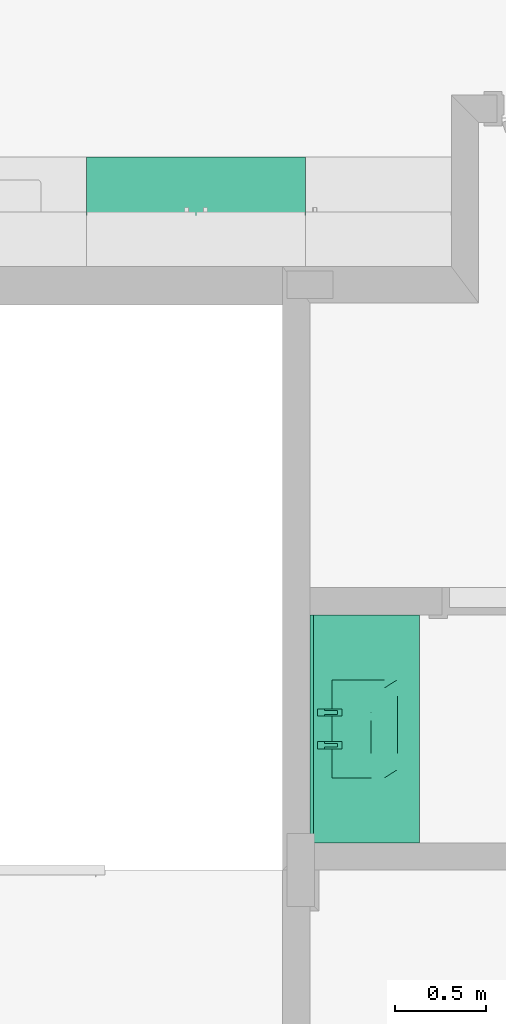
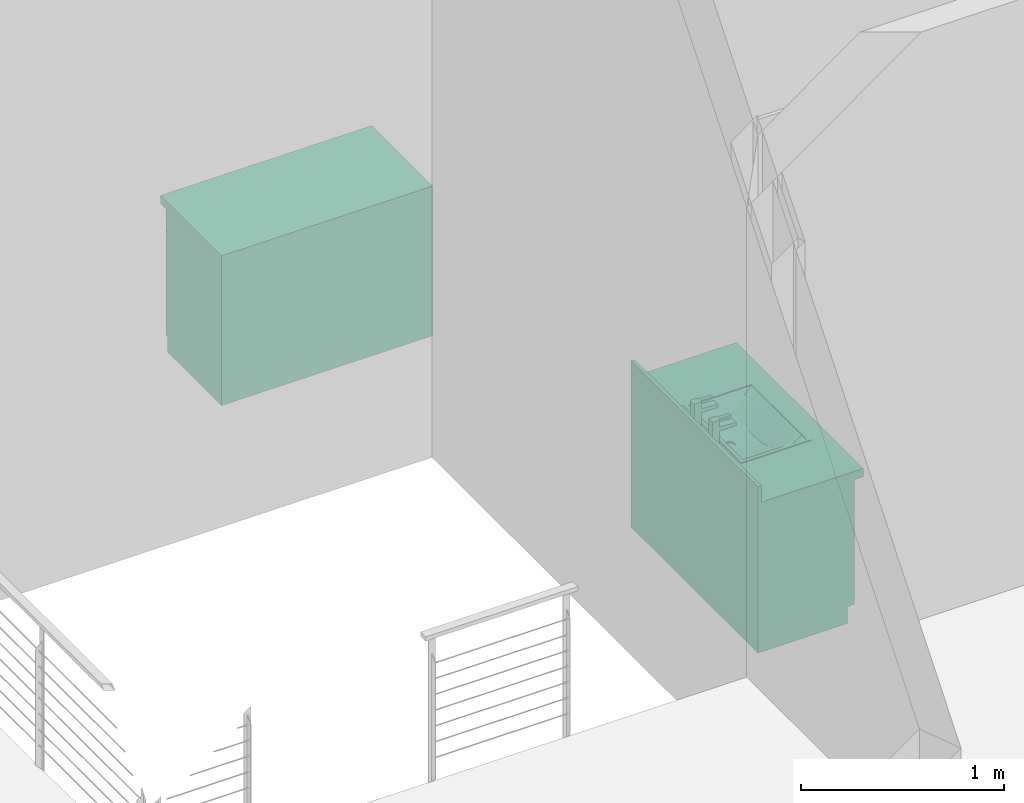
# One storey, part 22 of 26: 2 distribution elements.
"""IFC2X3 building model written with IfcOpenShell, lengths in millimetres."""

import ifcopenshell
import ifcopenshell.guid

model = None  # the IFC model being written
_history = None  # IfcOwnerHistory: only IFC2X3 demands one
_inside = {}  # id of a spatial element -> (the spatial element, [elements in it])
_under = {}  # id of a project, library or spatial element -> (it, [spatial elements below it])
_declared = {}  # id of a project -> (the project, [libraries it declares])
_typed = {}  # id of a type object -> (the type object, [elements of that type])
_made_of = {}  # id of a material, layer set ... -> (it, [elements and type objects made of it])


def new_model(schema):
    """Start an empty IFC model of exactly this schema.

    Asked for "IFC4X3", IfcOpenShell would pick the latest addendum, in which some entities
    have other attributes; the version numbers below select the first issue.
    IFC2X3 requires an IfcOwnerHistory on every rooted entity: one is made here for all.
    """
    global model, _history
    if schema == "IFC4X3":
        model = ifcopenshell.file(schema_version=(4, 3, 0, 0))
    else:
        model = ifcopenshell.file(schema=schema)
    _inside.clear()
    _under.clear()
    _declared.clear()
    _typed.clear()
    _made_of.clear()
    _history = None
    if model.schema == "IFC2X3":
        org = make("IfcOrganization", Name="unknown")
        user = make(
            "IfcPersonAndOrganization",
            ThePerson=make("IfcPerson", FamilyName="unknown"),
            TheOrganization=org,
        )
        app = make(
            "IfcApplication",
            ApplicationDeveloper=org,
            Version="unknown",
            ApplicationFullName="unknown",
            ApplicationIdentifier="unknown",
        )
        _history = make(
            "IfcOwnerHistory",
            OwningUser=user,
            OwningApplication=app,
            ChangeAction="ADDED",
            CreationDate=0,
        )
    return model


def make(cls, **values):
    """One entity of the class cls with the attributes given. An attribute that is None is left unset."""
    return model.create_entity(
        cls, **{name: value for name, value in values.items() if value is not None}
    )


def entity(cls, *values):
    """Any entity or typed value of the class cls, its attributes in the order of the schema. None: left unset."""
    e = model.create_entity(cls)
    for i, value in enumerate(values):
        if value is not None:
            e[i] = value
    return e


def rooted(cls, **values):
    """An entity with a GlobalId (a new one), such as an element, a storey or a relation."""
    return make(cls, GlobalId=ifcopenshell.guid.new(), OwnerHistory=_history, **values)


def si_unit(unit_type, name, prefix=None):
    """IfcSIUnit, for example si_unit("LENGTHUNIT", "METRE", prefix="MILLI")."""
    return make("IfcSIUnit", UnitType=unit_type, Prefix=prefix, Name=name)


def converted_unit(unit_type, name, factor, base, dimensions=None, offset=None):
    """IfcConversionBasedUnit, such as the inch: factor (a typed value) times the base unit."""
    return make(
        "IfcConversionBasedUnit"
        if offset is None
        else "IfcConversionBasedUnitWithOffset",
        ConversionOffset=offset,
        Dimensions=None
        if dimensions is None
        else entity("IfcDimensionalExponents", *dimensions),
        UnitType=unit_type,
        Name=name,
        ConversionFactor=make(
            "IfcMeasureWithUnit", ValueComponent=factor, UnitComponent=base
        ),
    )


def money_unit(currency):
    """IfcMonetaryUnit."""
    return make("IfcMonetaryUnit", Currency=currency)


def assignment(units):
    """IfcUnitAssignment: the units of a project."""
    return None if units is None else make("IfcUnitAssignment", Units=units)


def point(xyz):
    """IfcCartesianPoint."""
    return None if xyz is None else make("IfcCartesianPoint", Coordinates=xyz)


def direction(xyz):
    """IfcDirection."""
    return None if xyz is None else make("IfcDirection", DirectionRatios=xyz)


def frame(location, z_axis=None, x_axis=None):
    """IfcAxis2Placement3D, a coordinate frame: its origin and axes. An axis left out is left unset."""
    return make(
        "IfcAxis2Placement3D",
        Location=point(location),
        Axis=direction(z_axis),
        RefDirection=direction(x_axis),
    )


def origin_with_axes():
    """The frame at (0, 0, 0) with the z axis (0, 0, 1) and the x axis (1, 0, 0) written out."""
    return frame((0.0, 0.0, 0.0), z_axis=(0.0, 0.0, 1.0), x_axis=(1.0, 0.0, 0.0))


def place(relative_to, where):
    """IfcLocalPlacement: puts the frame where relative to a parent placement (None: the world)."""
    return make(
        "IfcLocalPlacement", PlacementRelTo=relative_to, RelativePlacement=where
    )


def context(
    kind, dimensions, precision=None, world=None, true_north=None, identifier=None
):
    """IfcGeometricRepresentationContext, for example the 3D "Model" context."""
    return make(
        "IfcGeometricRepresentationContext",
        ContextIdentifier=identifier,
        ContextType=kind,
        CoordinateSpaceDimension=dimensions,
        Precision=precision,
        WorldCoordinateSystem=world,
        TrueNorth=true_north,
    )


def subcontext(parent, identifier, kind, view, scale=None):
    """IfcGeometricRepresentationSubContext, for example "Body" below "Model"."""
    return make(
        "IfcGeometricRepresentationSubContext",
        ContextIdentifier=identifier,
        ContextType=kind,
        ParentContext=parent,
        TargetScale=scale,
        TargetView=view,
    )


def project(units=None, contexts=None):
    """IfcProject with its units and contexts."""
    return rooted(
        "IfcProject",
        Name="project",
        RepresentationContexts=contexts,
        UnitsInContext=assignment(units),
    )


def spatial(cls, under=None, at=None, **own):
    """A site, building, storey or space (cls), placed at a placement, below another one or the project."""
    s = rooted(cls, ObjectPlacement=at, **own)
    if under is not None:
        _under.setdefault(under.id(), (under, []))[1].append(s)
    return s


def faces_of(points, faces, orient=None, outer=None):
    """IfcFace entities. A face is a list of loops; a loop is a list of indices into points, from 0.

    orient and outer hold one flag for each loop. By default every Orientation is true, the
    first loop of a face is its IfcFaceOuterBound and the others are IfcFaceBound.
    """
    made = []
    for i, loops in enumerate(faces):
        bounds = []
        for j, loop in enumerate(loops):
            is_outer = j == 0 if outer is None else outer[i][j]
            bounds.append(
                make(
                    "IfcFaceOuterBound" if is_outer else "IfcFaceBound",
                    Bound=make("IfcPolyLoop", Polygon=[points[k] for k in loop]),
                    Orientation=True if orient is None else orient[i][j],
                )
            )
        made.append(make("IfcFace", Bounds=bounds))
    return made


def open_shell(faces, orient=None, outer=None):
    """The faces of one IfcOpenShell. surface_model builds it on its shared points."""
    return ("IfcOpenShell", faces, orient, outer)


def faceted_brep(points, faces, orient=None, outer=None, voids=None):
    """IfcFacetedBrep: a solid bounded by flat faces; with voids (closed shells), ...WithVoids."""
    shared = [point(p) for p in points]
    hull = make("IfcClosedShell", CfsFaces=faces_of(shared, faces, orient, outer))
    if voids is None:
        return make("IfcFacetedBrep", Outer=hull)
    return make(
        "IfcFacetedBrepWithVoids",
        Outer=hull,
        Voids=[
            make(cls, CfsFaces=faces_of(shared, fs, o, b)) for cls, fs, o, b in voids
        ],
    )


def surface_model(cls, points, shells):
    """IfcFaceBasedSurfaceModel or IfcShellBasedSurfaceModel (cls): surfaces that need not close."""
    shared = [point(p) for p in points]
    made = [make(c, CfsFaces=faces_of(shared, fs, o, b)) for c, fs, o, b in shells]
    if cls == "IfcFaceBasedSurfaceModel":
        return make(cls, FbsmFaces=made)
    return make(cls, SbsmBoundary=made)


def shape(context_of_items, identifier, shape_type, items):
    """IfcShapeRepresentation: the items that make up one representation, for example the "Body"."""
    return make(
        "IfcShapeRepresentation",
        ContextOfItems=context_of_items,
        RepresentationIdentifier=identifier,
        RepresentationType=shape_type,
        Items=items,
    )


def material(Name=None, Category=None):
    """IfcMaterial."""
    return make("IfcMaterial", Name=Name, Category=Category)


def made_of(thing, what):
    """Note that an element or type object is made of a material, layer set ...; save() writes the relation."""
    if what is not None:
        _made_of.setdefault(what.id(), (what, []))[1].append(thing)
    return thing


def type_object(cls, material=None, **own):
    """A type object (cls), such as IfcWallType, which elements share."""
    return made_of(rooted(cls, **own), material)


def element(
    cls,
    number,
    at=None,
    inside=None,
    cuts=None,
    type_object=None,
    material=None,
    context=None,
    identifier="Body",
    shape_type=None,
    held_by="IfcProductDefinitionShape",
    body=None,
    shapes=None,
    **own,
):
    """One element of the class cls, such as IfcWall. Its Tag is "e" and its number.

    at: its placement. inside: the storey or other place that contains it. cuts: it is an
    opening in that element (IfcRelVoidsElement). A single representation is given by context,
    identifier, shape_type and body (its items); several are given by shapes. held_by: the class
    of the entity that holds the representations. save() writes the other relations.
    """
    e = rooted(cls, Tag="e%d" % number, ObjectPlacement=at, **own)
    if body is not None:
        shapes = [shape(context, identifier, shape_type, body)]
    if shapes is not None:
        e.Representation = make(held_by, Representations=shapes)
    if inside is not None:
        _inside.setdefault(inside.id(), (inside, []))[1].append(e)
    if cuts is not None:
        rooted(
            "IfcRelVoidsElement", RelatingBuildingElement=cuts, RelatedOpeningElement=e
        )
    if type_object is not None:
        _typed.setdefault(type_object.id(), (type_object, []))[1].append(e)
    return made_of(e, material)


def aggregate(whole, parts):
    """IfcRelAggregates: a whole, such as a stair, and the parts it consists of."""
    return rooted("IfcRelAggregates", RelatingObject=whole, RelatedObjects=parts)


def save(model, path):
    """Write the relations noted so far, then the file.

    IfcRelAggregates (storeys below a building ...), IfcRelContainedInSpatialStructure (elements
    in a storey), IfcRelDefinesByType, IfcRelAssociatesMaterial and IfcRelDeclares: one each for
    every whole, place, type object, material and project.
    """
    for whole, parts in _under.values():
        aggregate(whole, parts)
    for where, things in _inside.values():
        rooted(
            "IfcRelContainedInSpatialStructure",
            RelatedElements=things,
            RelatingStructure=where,
        )
    for kind, things in _typed.values():
        rooted("IfcRelDefinesByType", RelatedObjects=things, RelatingType=kind)
    for what, things in _made_of.values():
        rooted("IfcRelAssociatesMaterial", RelatedObjects=things, RelatingMaterial=what)
    for by, libraries in _declared.values():
        rooted("IfcRelDeclares", RelatingContext=by, RelatedDefinitions=libraries)
    model.write(path)


model = new_model("IFC2X3")

# Units and contexts
model_context = context("Model", 3, precision=1e-05, world=origin_with_axes(), true_north=direction((0.0, 1.0)))
body_context = subcontext(model_context, "Body", "Model", "MODEL_VIEW")
ifc_project = project(units=[si_unit("LENGTHUNIT", "METRE", prefix="MILLI"), si_unit("AREAUNIT", "SQUARE_METRE"), si_unit("VOLUMEUNIT", "CUBIC_METRE"), converted_unit("PLANEANGLEUNIT", "DEGREE", entity("IfcPlaneAngleMeasure", 0.0174532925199), si_unit("PLANEANGLEUNIT", "RADIAN"), dimensions=[0, 0, 0, 0, 0, 0, 0]), si_unit("SOLIDANGLEUNIT", "STERADIAN"), money_unit("USD"), converted_unit("TIMEUNIT", "Year", entity("IfcTimeMeasure", 31556926.0), si_unit("TIMEUNIT", "SECOND"), dimensions=[0, 0, 0, 0, 0, 0, 0]), si_unit("MASSUNIT", "GRAM"), si_unit("THERMODYNAMICTEMPERATUREUNIT", "DEGREE_CELSIUS"), si_unit("LUMINOUSINTENSITYUNIT", "LUMEN")], contexts=[model_context])

# Site, building, storey
site_placement = place(None, origin_with_axes())
site = spatial("IfcSite", under=ifc_project, at=site_placement, Name="Grove Residential", CompositionType="ELEMENT")
building_placement = place(site_placement, origin_with_axes())
building = spatial("IfcBuilding", under=site, at=building_placement, Name="Building", CompositionType="ELEMENT")
storey_placement = place(building_placement, origin_with_axes())
storey = spatial("IfcBuildingStorey", under=building, at=storey_placement, Name="Ground Floor", CompositionType="ELEMENT", Elevation=0.0)

# Distribution elements
ifc_material = material(Name="Background")
distribution_element_type_1 = type_object("IfcDistributionElementType", Name="Basin Cabinet 21")
distribution_element_1_placement = place(storey_placement, frame((7825.0, 5150.0, 0.0), z_axis=(0.0, 0.0, 1.0), x_axis=(0.0, 1.0, 0.0)))
element("IfcDistributionElement", 1, at=distribution_element_1_placement, inside=storey, type_object=distribution_element_type_1, material=ifc_material, Name="FU - 002", context=body_context, shape_type="SurfaceModel", body=[
    faceted_brep([(0.0, 90.0, 0.0), (0.0, 90.0, 100.0), (-1250.0, 90.0, 100.0), (-1250.0, 90.0, 0.0), (0.0, 600.0, 0.0), (0.0, 600.0, 100.0), (-1250.0, 600.0, 100.0), (-1250.0, 600.0, 0.0)], [[[0, 1, 2, 3]], [[4, 5, 1, 0]], [[1, 5, 6, 2]], [[3, 2, 6, 7]], [[0, 3, 7, 4]], [[7, 6, 5, 4]]]),
    faceted_brep([(0.0, 70.0, 100.0), (0.0, 70.0, 120.0), (-20.0, 70.0, 120.0), (-20.0, 70.0, 100.0), (0.0, 600.0, 100.0), (0.0, 600.0, 120.0), (-20.0, 600.0, 120.0), (-1230.0, 600.0, 120.0), (-1250.0, 600.0, 120.0), (-1250.0, 70.0, 120.0), (-1230.0, 70.0, 120.0), (-1230.0, 70.0, 100.0), (-1250.0, 70.0, 100.0), (-1250.0, 600.0, 100.0), (-1230.0, 600.0, 100.0), (-20.0, 600.0, 100.0)], [[[0, 1, 2, 3]], [[4, 5, 1, 0]], [[1, 5, 6, 7, 8, 9, 10, 2]], [[3, 2, 10, 11]], [[0, 3, 11, 12, 13, 14, 15, 4]], [[15, 6, 5, 4]], [[14, 7, 6, 15]], [[13, 8, 7, 14]], [[12, 9, 8, 13]], [[11, 10, 9, 12]]]),
    faceted_brep([(0.0, 70.0, 120.0), (0.0, 70.0, 850.0), (-20.0, 70.0, 850.0), (-20.0, 70.0, 120.0), (0.0, 600.0, 120.0), (0.0, 600.0, 850.0), (-1250.0, 600.0, 850.0), (-1250.0, 70.0, 850.0), (-1230.0, 70.0, 850.0), (-1230.0, 580.0, 850.0), (-20.0, 580.0, 850.0), (-20.0, 580.0, 120.0), (-1230.0, 580.0, 120.0), (-1230.0, 70.0, 120.0), (-1250.0, 70.0, 120.0), (-1250.0, 600.0, 120.0)], [[[0, 1, 2, 3]], [[4, 5, 1, 0]], [[1, 5, 6, 7, 8, 9, 10, 2]], [[3, 2, 10, 11]], [[0, 3, 11, 12, 13, 14, 15, 4]], [[15, 6, 5, 4]], [[14, 7, 6, 15]], [[13, 8, 7, 14]], [[12, 9, 8, 13]], [[11, 10, 9, 12]]]),
    faceted_brep([(-1230.0, 70.0, 323.333333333), (-1230.0, 70.0, 343.333333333), (-1230.0, 580.0, 343.333333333), (-1230.0, 580.0, 323.333333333), (-20.0, 70.0, 323.333333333), (-20.0, 70.0, 343.333333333), (-20.0, 580.0, 343.333333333), (-20.0, 580.0, 323.333333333)], [[[0, 1, 2, 3]], [[4, 5, 1, 0]], [[1, 5, 6, 2]], [[3, 2, 6, 7]], [[0, 3, 7, 4]], [[7, 6, 5, 4]]]),
    faceted_brep([(-1230.0, 70.0, 566.666666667), (-1230.0, 70.0, 586.666666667), (-1230.0, 580.0, 586.666666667), (-1230.0, 580.0, 566.666666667), (-20.0, 70.0, 566.666666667), (-20.0, 70.0, 586.666666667), (-20.0, 580.0, 586.666666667), (-20.0, 580.0, 566.666666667)], [[[0, 1, 2, 3]], [[4, 5, 1, 0]], [[1, 5, 6, 2]], [[3, 2, 6, 7]], [[0, 3, 7, 4]], [[7, 6, 5, 4]]]),
    faceted_brep([(-1250.0, 600.0, 850.0), (0.0, 600.0, 850.0), (0.0, 0.0, 850.0), (-1250.0, 0.0, 850.0), (-355.0, 120.0, 850.0), (-355.0, 480.0, 850.0), (-895.0, 480.0, 850.0), (-895.0, 120.0, 850.0), (0.0, 600.0, 900.0), (-1250.0, 600.0, 900.0), (0.0, 0.0, 900.0), (-1250.0, 0.0, 900.0), (-355.0, 480.0, 900.0), (-355.0, 120.0, 900.0), (-895.0, 480.0, 900.0), (-895.0, 120.0, 900.0)], [[[0, 1, 2, 3], [4, 5, 6, 7]], [[8, 1, 0, 9]], [[10, 2, 1, 8]], [[11, 3, 2, 10]], [[9, 0, 3, 11]], [[12, 5, 4, 13]], [[14, 6, 5, 12]], [[15, 7, 6, 14]], [[13, 4, 7, 15]], [[9, 11, 10, 8], [13, 15, 14, 12]]]),
    faceted_brep([(0.0, 580.0, 900.0), (0.0, 580.0, 1000.0), (-1250.0, 580.0, 1000.0), (-1250.0, 580.0, 900.0), (0.0, 600.0, 900.0), (0.0, 600.0, 1000.0), (-1250.0, 600.0, 1000.0), (-1250.0, 600.0, 900.0)], [[[0, 1, 2, 3]], [[4, 5, 1, 0]], [[1, 5, 6, 2]], [[3, 2, 6, 7]], [[0, 3, 7, 4]], [[7, 6, 5, 4]]]),
    faceted_brep([(-336.0, 101.0, 900.0), (-336.0, 101.0, 905.0), (-914.0, 101.0, 905.0), (-914.0, 101.0, 900.0), (-336.0, 499.0, 900.0), (-336.0, 499.0, 905.0), (-914.0, 499.0, 905.0), (-356.0, 121.0, 905.0), (-894.0, 121.0, 905.0), (-894.0, 479.0, 905.0), (-356.0, 479.0, 905.0), (-914.0, 499.0, 900.0), (-356.0, 121.0, 900.0), (-356.0, 479.0, 900.0), (-894.0, 479.0, 900.0), (-894.0, 121.0, 900.0)], [[[0, 1, 2, 3]], [[4, 5, 1, 0]], [[1, 5, 6, 2], [7, 8, 9, 10]], [[3, 2, 6, 11]], [[0, 3, 11, 4], [12, 13, 14, 15]], [[11, 6, 5, 4]], [[15, 8, 7, 12]], [[14, 9, 8, 15]], [[13, 10, 9, 14]], [[12, 7, 10, 13]]]),
    surface_model("IfcShellBasedSurfaceModel", [(-597.298862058, 407.4, 801.512410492), (-580.166666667, 407.4, 802.447784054), (-580.166666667, 479.0, 802.447784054), (-625.0, 479.0, 800.0), (-625.0, 428.82053, 800.0), (-610.0, 424.801292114, 800.818961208), (-599.019237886, 413.82053, 801.418482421), (-625.0, 368.82053, 800.0), (-625.0, 335.8, 800.0), (-580.166666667, 335.8, 802.447784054), (-595.0, 398.82053, 801.637922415), (-599.019237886, 383.82053, 801.418482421), (-610.0, 372.839767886, 800.818961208), (-535.333333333, 407.4, 809.880570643), (-535.333333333, 479.0, 809.880570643), (-804.333333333, 479.0, 841.099033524), (-759.5, 479.0, 822.583844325), (-714.666666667, 479.0, 809.880570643), (-669.833333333, 479.0, 802.447784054), (-490.5, 479.0, 822.583844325), (-445.666666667, 479.0, 841.099033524), (-400.833333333, 479.0, 866.359398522), (-356.0, 479.0, 900.0), (-894.0, 479.0, 900.0), (-849.166666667, 479.0, 866.359398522), (-669.833333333, 407.4, 802.447784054), (-652.701137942, 407.4, 801.512410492), (-650.980762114, 413.82053, 801.418482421), (-640.0, 424.801292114, 800.818961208), (-669.833333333, 335.8, 802.447784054), (-640.0, 372.839767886, 800.818961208), (-650.980762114, 383.82053, 801.418482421), (-655.0, 398.82053, 801.637922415), (-580.166666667, 264.2, 813.703778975), (-535.333333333, 335.8, 809.880570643), (-490.5, 407.4, 822.583844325), (-804.333333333, 407.4, 841.099033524), (-759.5, 407.4, 822.583844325), (-714.666666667, 407.4, 809.880570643), (-445.666666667, 407.4, 841.099033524), (-400.833333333, 407.4, 866.359398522), (-356.0, 407.4, 900.0), (-894.0, 407.4, 900.0), (-849.166666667, 407.4, 866.359398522), (-714.666666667, 335.8, 809.880570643), (-625.0, 264.2, 811.479674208), (-535.333333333, 264.2, 820.44293141), (-490.5, 335.8, 822.583844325), (-804.333333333, 335.8, 841.099033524), (-759.5, 335.8, 822.583844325), (-445.666666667, 335.8, 841.099033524), (-400.833333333, 335.8, 866.359398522), (-356.0, 335.8, 900.0), (-356.0, 264.2, 900.0), (-356.0, 192.6, 900.0), (-356.0, 121.0, 900.0), (-894.0, 264.2, 900.0), (-894.0, 335.8, 900.0), (-894.0, 121.0, 900.0), (-894.0, 192.6, 900.0), (-849.166666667, 335.8, 866.359398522), (-669.833333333, 264.2, 813.703778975), (-580.166666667, 192.6, 856.053471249), (-535.333333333, 192.6, 859.727879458), (-490.5, 264.2, 831.908110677), (-759.5, 264.2, 831.908110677), (-714.666666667, 264.2, 820.44293141), (-445.666666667, 264.2, 848.489912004), (-400.833333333, 264.2, 870.834422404), (-400.833333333, 192.6, 885.925600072), (-849.166666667, 264.2, 870.834422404), (-849.166666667, 121.0, 900.0), (-849.166666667, 192.6, 885.925600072), (-804.333333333, 264.2, 848.489912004), (-625.0, 192.6, 854.83231135), (-490.5, 192.6, 865.888816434), (-400.833333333, 121.0, 900.0), (-445.666666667, 121.0, 900.0), (-490.5, 121.0, 900.0), (-535.333333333, 121.0, 900.0), (-580.166666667, 121.0, 900.0), (-625.0, 121.0, 900.0), (-669.833333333, 121.0, 900.0), (-714.666666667, 121.0, 900.0), (-759.5, 121.0, 900.0), (-804.333333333, 121.0, 900.0), (-669.833333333, 192.6, 856.053471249), (-445.666666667, 192.6, 874.593452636), (-759.5, 192.6, 865.888816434), (-714.666666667, 192.6, 859.727879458), (-804.333333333, 192.6, 874.593452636)], [open_shell([[[0, 1, 2, 3, 4, 5, 6]], [[7, 8, 9, 1, 0, 10, 11, 12]], [[2, 1, 13, 14]], [[15, 16, 17, 18, 3, 2, 14, 19, 20, 21, 22, 23, 24]], [[3, 18, 25, 26, 27, 28, 4]], [[26, 25, 29, 8, 7, 30, 31, 32]], [[8, 33, 9]], [[1, 9, 34, 13]], [[14, 13, 35, 19]], [[15, 36, 37, 16]], [[16, 37, 38, 17]], [[17, 38, 25, 18]], [[19, 35, 39, 20]], [[20, 39, 40, 21]], [[21, 40, 41, 22]], [[23, 42, 43, 24]], [[24, 43, 36, 15]], [[38, 44, 29, 25]], [[29, 45, 8]], [[45, 33, 8]], [[33, 46, 9]], [[9, 46, 34]], [[13, 34, 47, 35]], [[36, 48, 49, 37]], [[37, 49, 44, 38]], [[35, 47, 50, 39]], [[39, 50, 51, 40]], [[40, 51, 52, 41]], [[52, 53, 54, 55, 22, 41]], [[56, 57, 42, 23, 58, 59]], [[42, 57, 60, 43]], [[43, 60, 48, 36]], [[44, 61, 29]], [[61, 45, 29]], [[45, 62, 33]], [[33, 63, 46]], [[46, 64, 34]], [[34, 64, 47]], [[48, 65, 49]], [[49, 66, 44]], [[47, 67, 50]], [[50, 68, 51]], [[51, 53, 52]], [[68, 54, 53]], [[69, 55, 54]], [[56, 70, 57]], [[58, 71, 59]], [[59, 72, 56]], [[57, 70, 60]], [[60, 73, 48]], [[66, 61, 44]], [[61, 74, 45]], [[74, 62, 45]], [[62, 63, 33]], [[63, 75, 46]], [[46, 75, 64]], [[64, 67, 47]], [[73, 65, 48]], [[65, 66, 49]], [[67, 68, 50]], [[68, 53, 51]], [[69, 54, 68]], [[76, 55, 69]], [[56, 72, 70]], [[77, 78, 79, 80, 81, 82, 83, 84, 85, 71, 58, 55, 76]], [[59, 71, 72]], [[70, 73, 60]], [[66, 86, 61]], [[86, 74, 61]], [[74, 80, 62]], [[62, 79, 63]], [[63, 78, 75]], [[75, 87, 64]], [[64, 87, 67]], [[73, 88, 65]], [[65, 89, 66]], [[67, 69, 68]], [[87, 76, 69]], [[72, 90, 70]], [[78, 77, 75]], [[79, 78, 63]], [[80, 79, 62]], [[81, 80, 74]], [[82, 81, 86]], [[83, 82, 89]], [[84, 83, 88]], [[85, 84, 90]], [[71, 85, 72]], [[77, 76, 87]], [[70, 90, 73]], [[89, 86, 66]], [[86, 81, 74]], [[75, 77, 87]], [[87, 69, 67]], [[90, 88, 73]], [[88, 89, 65]], [[72, 85, 90]], [[89, 82, 86]], [[88, 83, 89]], [[90, 84, 88]]])]),
    surface_model("IfcShellBasedSurfaceModel", [(-650.980762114, 413.82053, 801.418482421), (-650.980762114, 413.82053, 795.0), (-655.0, 398.82053, 795.0), (-655.0, 398.82053, 801.637922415), (-640.0, 424.801292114, 800.818961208), (-640.0, 424.801292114, 795.0), (-625.0, 428.82053, 795.0), (-610.0, 424.801292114, 795.0), (-599.019237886, 413.82053, 795.0), (-595.0, 398.82053, 795.0), (-599.019237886, 383.82053, 795.0), (-610.0, 372.839767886, 795.0), (-625.0, 368.82053, 795.0), (-640.0, 372.839767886, 795.0), (-650.980762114, 383.82053, 795.0), (-650.980762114, 383.82053, 801.418482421), (-625.0, 428.82053, 800.0), (-610.0, 424.801292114, 800.818961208), (-599.019237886, 413.82053, 801.418482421), (-595.0, 398.82053, 801.637922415), (-599.019237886, 383.82053, 801.418482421), (-610.0, 372.839767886, 800.818961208), (-625.0, 368.82053, 800.0), (-640.0, 372.839767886, 800.818961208)], [open_shell([[[0, 1, 2, 3]], [[4, 5, 1, 0]], [[5, 6, 7, 8, 9, 10, 11, 12, 13, 14, 2, 1]], [[3, 2, 14, 15]], [[16, 6, 5, 4]], [[17, 7, 6, 16]], [[18, 8, 7, 17]], [[19, 9, 8, 18]], [[20, 10, 9, 19]], [[21, 11, 10, 20]], [[22, 12, 11, 21]], [[23, 13, 12, 22]], [[15, 14, 13, 23]]])]),
    faceted_brep([(-735.0, 560.0, 900.0), (-695.0, 560.0, 900.0), (-695.0, 520.0, 900.0), (-735.0, 520.0, 900.0), (-735.0, 560.0, 1020.0), (-695.0, 560.0, 1020.0), (-695.0, 520.0, 1020.0), (-695.0, 425.0, 1013.35695287), (-695.0, 425.0, 995.0), (-695.0, 520.0, 995.0), (-735.0, 520.0, 995.0), (-735.0, 425.0, 995.0), (-735.0, 425.0, 1013.35695287), (-735.0, 520.0, 1020.0)], [[[0, 1, 2, 3]], [[4, 5, 1, 0]], [[1, 5, 6, 7, 8, 9, 2]], [[3, 2, 9, 10]], [[0, 3, 10, 11, 12, 13, 4]], [[13, 6, 5, 4]], [[12, 7, 6, 13]], [[11, 8, 7, 12]], [[10, 9, 8, 11]]]),
    faceted_brep([(-735.0, 560.0, 1020.0), (-695.0, 560.0, 1020.0), (-695.0, 520.0, 1020.0), (-735.0, 520.0, 1020.0), (-735.0, 560.0, 1060.0), (-695.0, 560.0, 1060.0), (-695.0, 520.0, 1060.0), (-735.0, 520.0, 1060.0)], [[[0, 1, 2, 3]], [[4, 5, 1, 0]], [[1, 5, 6, 2]], [[3, 2, 6, 7]], [[0, 3, 7, 4]], [[7, 6, 5, 4]]]),
    faceted_brep([(-725.0, 520.0, 1050.0), (-705.0, 520.0, 1050.0), (-705.0, 450.0, 1050.0), (-725.0, 450.0, 1050.0), (-725.0, 520.0, 1060.0), (-705.0, 520.0, 1060.0), (-705.0, 450.0, 1060.0), (-725.0, 450.0, 1060.0)], [[[0, 1, 2, 3]], [[4, 5, 1, 0]], [[1, 5, 6, 2]], [[3, 2, 6, 7]], [[0, 3, 7, 4]], [[7, 6, 5, 4]]]),
    faceted_brep([(-515.0, 560.0, 900.0), (-515.0, 520.0, 900.0), (-555.0, 520.0, 900.0), (-555.0, 560.0, 900.0), (-515.0, 560.0, 1020.0), (-515.0, 520.0, 1020.0), (-515.0, 425.0, 1013.35695287), (-515.0, 425.0, 995.0), (-515.0, 520.0, 995.0), (-555.0, 520.0, 995.0), (-555.0, 425.0, 995.0), (-555.0, 425.0, 1013.35695287), (-555.0, 520.0, 1020.0), (-555.0, 560.0, 1020.0)], [[[0, 1, 2, 3]], [[0, 4, 5, 6, 7, 8, 1]], [[1, 8, 9, 2]], [[3, 2, 9, 10, 11, 12, 13]], [[4, 0, 3, 13]], [[5, 4, 13, 12]], [[6, 5, 12, 11]], [[7, 6, 11, 10]], [[8, 7, 10, 9]]]),
    faceted_brep([(-515.0, 560.0, 1020.0), (-515.0, 520.0, 1020.0), (-555.0, 520.0, 1020.0), (-555.0, 560.0, 1020.0), (-515.0, 560.0, 1060.0), (-515.0, 520.0, 1060.0), (-555.0, 520.0, 1060.0), (-555.0, 560.0, 1060.0)], [[[0, 1, 2, 3]], [[0, 4, 5, 1]], [[1, 5, 6, 2]], [[3, 2, 6, 7]], [[4, 0, 3, 7]], [[5, 4, 7, 6]]]),
    faceted_brep([(-525.0, 520.0, 1050.0), (-525.0, 450.0, 1050.0), (-545.0, 450.0, 1050.0), (-545.0, 520.0, 1050.0), (-525.0, 520.0, 1060.0), (-525.0, 450.0, 1060.0), (-545.0, 450.0, 1060.0), (-545.0, 520.0, 1060.0)], [[[0, 1, 2, 3]], [[0, 4, 5, 1]], [[1, 5, 6, 2]], [[3, 2, 6, 7]], [[4, 0, 3, 7]], [[5, 4, 7, 6]]]),
    faceted_brep([(-1.5, 70.0, 101.5), (-1.5, 50.0, 101.5), (-448.5, 50.0, 101.5), (-448.5, 70.0, 101.5), (-1.5, 70.0, 848.5), (-1.5, 50.0, 848.5), (-448.5, 50.0, 848.5), (-448.5, 70.0, 848.5)], [[[0, 1, 2, 3]], [[4, 5, 1, 0]], [[1, 5, 6, 2]], [[3, 2, 6, 7]], [[0, 3, 7, 4]], [[7, 6, 5, 4]]]),
    faceted_brep([(-408.892304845, 50.0, 785.5), (-410.5, 50.0, 791.5), (-408.892304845, 50.0, 797.5), (-404.5, 50.0, 801.892304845), (-398.5, 50.0, 803.5), (-392.5, 50.0, 801.892304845), (-388.107695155, 50.0, 797.5), (-386.5, 50.0, 791.5), (-388.107695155, 50.0, 785.5), (-392.5, 50.0, 781.107695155), (-398.5, 50.0, 779.5), (-404.5, 50.0, 781.107695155), (-408.892304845, 25.0, 785.5), (-410.5, 25.0, 791.5), (-408.892304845, 25.0, 797.5), (-404.5, 25.0, 801.892304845), (-398.5, 25.0, 803.5), (-392.5, 25.0, 801.892304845), (-388.107695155, 25.0, 797.5), (-386.5, 25.0, 791.5), (-388.107695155, 25.0, 785.5), (-392.5, 25.0, 781.107695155), (-398.5, 25.0, 779.5), (-404.5, 25.0, 781.107695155)], [[[0, 1, 2, 3, 4, 5, 6, 7, 8, 9, 10, 11]], [[0, 12, 13, 1]], [[1, 13, 14, 2]], [[2, 14, 15, 3]], [[3, 15, 16, 4]], [[4, 16, 17, 5]], [[5, 17, 18, 6]], [[6, 18, 19, 7]], [[7, 19, 20, 8]], [[8, 20, 21, 9]], [[9, 21, 22, 10]], [[10, 22, 23, 11]], [[11, 23, 12, 0]], [[12, 23, 22, 21, 20, 19, 18, 17, 16, 15, 14, 13]]]),
    faceted_brep([(-1248.5, 70.0, 101.5), (-451.5, 70.0, 101.5), (-451.5, 50.0, 101.5), (-1248.5, 50.0, 101.5), (-1248.5, 70.0, 848.5), (-451.5, 70.0, 848.5), (-451.5, 50.0, 848.5), (-1248.5, 50.0, 848.5)], [[[0, 1, 2, 3]], [[0, 4, 5, 1]], [[1, 5, 6, 2]], [[3, 2, 6, 7]], [[4, 0, 3, 7]], [[5, 4, 7, 6]]]),
    faceted_brep([(-491.107695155, 50.0, 785.5), (-495.5, 50.0, 781.107695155), (-501.5, 50.0, 779.5), (-507.5, 50.0, 781.107695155), (-511.892304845, 50.0, 785.5), (-513.5, 50.0, 791.5), (-511.892304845, 50.0, 797.5), (-507.5, 50.0, 801.892304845), (-501.5, 50.0, 803.5), (-495.5, 50.0, 801.892304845), (-491.107695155, 50.0, 797.5), (-489.5, 50.0, 791.5), (-491.107695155, 25.0, 785.5), (-495.5, 25.0, 781.107695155), (-501.5, 25.0, 779.5), (-507.5, 25.0, 781.107695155), (-511.892304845, 25.0, 785.5), (-513.5, 25.0, 791.5), (-511.892304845, 25.0, 797.5), (-507.5, 25.0, 801.892304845), (-501.5, 25.0, 803.5), (-495.5, 25.0, 801.892304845), (-491.107695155, 25.0, 797.5), (-489.5, 25.0, 791.5)], [[[0, 1, 2, 3, 4, 5, 6, 7, 8, 9, 10, 11]], [[1, 0, 12, 13]], [[2, 1, 13, 14]], [[3, 2, 14, 15]], [[4, 3, 15, 16]], [[5, 4, 16, 17]], [[6, 5, 17, 18]], [[7, 6, 18, 19]], [[8, 7, 19, 20]], [[9, 8, 20, 21]], [[10, 9, 21, 22]], [[11, 10, 22, 23]], [[0, 11, 23, 12]], [[12, 23, 22, 21, 20, 19, 18, 17, 16, 15, 14, 13]]]),
])
distribution_element_type_2 = type_object("IfcDistributionElementType", Name="Cabinet Base Double Door 21")
distribution_element_2_placement = place(storey_placement, frame((7200.0, 7660.00018153, 0.0), z_axis=(0.0, 0.0, 1.0), x_axis=(-1.0, 0.0, 0.0)))
element("IfcDistributionElement", 2, at=distribution_element_2_placement, inside=storey, type_object=distribution_element_type_2, material=ifc_material, Name="FU - 001", context=body_context, shape_type="Brep", body=[
    faceted_brep([(20.0, 70.0, 710.0), (1180.0, 70.0, 710.0), (1180.0, 70.0, 730.0), (20.0, 70.0, 730.0), (20.0, 580.0, 710.0), (1180.0, 580.0, 710.0), (1180.0, 580.0, 730.0), (20.0, 580.0, 730.0)], [[[0, 1, 2, 3]], [[0, 4, 5, 1]], [[1, 5, 6, 2]], [[3, 2, 6, 7]], [[4, 0, 3, 7]], [[5, 4, 7, 6]]]),
    faceted_brep([(0.0, 70.0, 0.0), (1200.0, 70.0, 0.0), (1200.0, 70.0, 90.0), (0.0, 70.0, 90.0), (0.0, 600.0, 0.0), (1200.0, 600.0, 0.0), (1200.0, 600.0, 90.0), (0.0, 600.0, 90.0)], [[[0, 1, 2, 3]], [[0, 4, 5, 1]], [[1, 5, 6, 2]], [[3, 2, 6, 7]], [[4, 0, 3, 7]], [[5, 4, 7, 6]]]),
    faceted_brep([(0.0, 70.0, 830.0), (20.0, 70.0, 830.0), (20.0, 70.0, 850.0), (0.0, 70.0, 850.0), (0.0, 600.0, 830.0), (20.0, 600.0, 830.0), (1180.0, 600.0, 830.0), (1200.0, 600.0, 830.0), (1200.0, 70.0, 830.0), (1180.0, 70.0, 830.0), (1180.0, 70.0, 850.0), (1200.0, 70.0, 850.0), (1200.0, 600.0, 850.0), (1180.0, 600.0, 850.0), (20.0, 600.0, 850.0), (0.0, 600.0, 850.0)], [[[0, 1, 2, 3]], [[0, 4, 5, 6, 7, 8, 9, 1]], [[1, 9, 10, 2]], [[3, 2, 10, 11, 12, 13, 14, 15]], [[4, 0, 3, 15]], [[5, 4, 15, 14]], [[6, 5, 14, 13]], [[7, 6, 13, 12]], [[8, 7, 12, 11]], [[9, 8, 11, 10]]]),
    faceted_brep([(0.0, 70.0, 90.0), (20.0, 70.0, 90.0), (20.0, 70.0, 110.0), (0.0, 70.0, 110.0), (0.0, 600.0, 90.0), (20.0, 600.0, 90.0), (1180.0, 600.0, 90.0), (1200.0, 600.0, 90.0), (1200.0, 70.0, 90.0), (1180.0, 70.0, 90.0), (1180.0, 70.0, 110.0), (1200.0, 70.0, 110.0), (1200.0, 600.0, 110.0), (1180.0, 600.0, 110.0), (20.0, 600.0, 110.0), (0.0, 600.0, 110.0)], [[[0, 1, 2, 3]], [[0, 4, 5, 6, 7, 8, 9, 1]], [[1, 9, 10, 2]], [[3, 2, 10, 11, 12, 13, 14, 15]], [[4, 0, 3, 15]], [[5, 4, 15, 14]], [[6, 5, 14, 13]], [[7, 6, 13, 12]], [[8, 7, 12, 11]], [[9, 8, 11, 10]]]),
    faceted_brep([(0.0, 70.0, 110.0), (20.0, 70.0, 110.0), (20.0, 70.0, 830.0), (0.0, 70.0, 830.0), (0.0, 600.0, 110.0), (1200.0, 600.0, 110.0), (1200.0, 70.0, 110.0), (1180.0, 70.0, 110.0), (1180.0, 580.0, 110.0), (20.0, 580.0, 110.0), (20.0, 580.0, 830.0), (1180.0, 580.0, 830.0), (1180.0, 70.0, 830.0), (1200.0, 70.0, 830.0), (1200.0, 600.0, 830.0), (0.0, 600.0, 830.0)], [[[0, 1, 2, 3]], [[0, 4, 5, 6, 7, 8, 9, 1]], [[1, 9, 10, 2]], [[3, 2, 10, 11, 12, 13, 14, 15]], [[4, 0, 3, 15]], [[5, 4, 15, 14]], [[6, 5, 14, 13]], [[7, 6, 13, 12]], [[8, 7, 12, 11]], [[9, 8, 11, 10]]]),
    faceted_brep([(1180.0, 70.0, 385.0), (1180.0, 580.0, 385.0), (1180.0, 580.0, 405.0), (1180.0, 70.0, 405.0), (20.0, 70.0, 385.0), (20.0, 580.0, 385.0), (20.0, 580.0, 405.0), (20.0, 70.0, 405.0)], [[[0, 1, 2, 3]], [[0, 4, 5, 1]], [[1, 5, 6, 2]], [[3, 2, 6, 7]], [[4, 0, 3, 7]], [[5, 4, 7, 6]]]),
    faceted_brep([(0.0, 0.0, 850.0), (1200.0, 0.0, 850.0), (1200.0, 0.0, 900.0), (0.0, 0.0, 900.0), (0.0, 600.0, 850.0), (1200.0, 600.0, 850.0), (1200.0, 600.0, 900.0), (0.0, 600.0, 900.0)], [[[0, 1, 2, 3]], [[0, 4, 5, 1]], [[1, 5, 6, 2]], [[3, 2, 6, 7]], [[4, 0, 3, 7]], [[5, 4, 7, 6]]]),
    faceted_brep([(1.5, 70.0, 721.5), (598.5, 70.0, 721.5), (598.5, 50.0, 721.5), (1.5, 50.0, 721.5), (1.5, 70.0, 848.5), (598.5, 70.0, 848.5), (598.5, 50.0, 848.5), (1.5, 50.0, 848.5)], [[[0, 1, 2, 3]], [[0, 4, 5, 1]], [[1, 5, 6, 2]], [[3, 2, 6, 7]], [[4, 0, 3, 7]], [[5, 4, 7, 6]]]),
    faceted_brep([(601.5, 70.0, 721.5), (1198.5, 70.0, 721.5), (1198.5, 50.0, 721.5), (601.5, 50.0, 721.5), (601.5, 70.0, 848.5), (1198.5, 70.0, 848.5), (1198.5, 50.0, 848.5), (601.5, 50.0, 848.5)], [[[0, 1, 2, 3]], [[0, 4, 5, 1]], [[1, 5, 6, 2]], [[3, 2, 6, 7]], [[4, 0, 3, 7]], [[5, 4, 7, 6]]]),
    faceted_brep([(295.407798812, 50.0, 773.91344561), (291.514718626, 50.0, 776.514718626), (288.91344561, 50.0, 780.407798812), (288.0, 50.0, 785.0), (288.91344561, 50.0, 789.592201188), (291.514718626, 50.0, 793.485281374), (295.407798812, 50.0, 796.08655439), (300.0, 50.0, 797.0), (304.592201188, 50.0, 796.08655439), (308.485281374, 50.0, 793.485281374), (311.08655439, 50.0, 789.592201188), (312.0, 50.0, 785.0), (311.08655439, 50.0, 780.407798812), (308.485281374, 50.0, 776.514718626), (304.592201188, 50.0, 773.91344561), (300.0, 50.0, 773.0), (295.407798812, 25.0, 773.91344561), (291.514718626, 25.0, 776.514718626), (288.91344561, 25.0, 780.407798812), (288.0, 25.0, 785.0), (288.91344561, 25.0, 789.592201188), (291.514718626, 25.0, 793.485281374), (295.407798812, 25.0, 796.08655439), (300.0, 25.0, 797.0), (304.592201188, 25.0, 796.08655439), (308.485281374, 25.0, 793.485281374), (311.08655439, 25.0, 789.592201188), (312.0, 25.0, 785.0), (311.08655439, 25.0, 780.407798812), (308.485281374, 25.0, 776.514718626), (304.592201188, 25.0, 773.91344561), (300.0, 25.0, 773.0)], [[[0, 1, 2, 3, 4, 5, 6, 7, 8, 9, 10, 11, 12, 13, 14, 15]], [[1, 0, 16, 17]], [[2, 1, 17, 18]], [[3, 2, 18, 19]], [[4, 3, 19, 20]], [[5, 4, 20, 21]], [[6, 5, 21, 22]], [[7, 6, 22, 23]], [[8, 7, 23, 24]], [[9, 8, 24, 25]], [[10, 9, 25, 26]], [[11, 10, 26, 27]], [[12, 11, 27, 28]], [[13, 12, 28, 29]], [[14, 13, 29, 30]], [[15, 14, 30, 31]], [[0, 15, 31, 16]], [[16, 31, 30, 29, 28, 27, 26, 25, 24, 23, 22, 21, 20, 19, 18, 17]]]),
    faceted_brep([(895.407798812, 50.0, 773.91344561), (891.514718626, 50.0, 776.514718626), (888.91344561, 50.0, 780.407798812), (888.0, 50.0, 785.0), (888.91344561, 50.0, 789.592201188), (891.514718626, 50.0, 793.485281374), (895.407798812, 50.0, 796.08655439), (900.0, 50.0, 797.0), (904.592201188, 50.0, 796.08655439), (908.485281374, 50.0, 793.485281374), (911.08655439, 50.0, 789.592201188), (912.0, 50.0, 785.0), (911.08655439, 50.0, 780.407798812), (908.485281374, 50.0, 776.514718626), (904.592201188, 50.0, 773.91344561), (900.0, 50.0, 773.0), (895.407798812, 25.0, 773.91344561), (891.514718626, 25.0, 776.514718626), (888.91344561, 25.0, 780.407798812), (888.0, 25.0, 785.0), (888.91344561, 25.0, 789.592201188), (891.514718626, 25.0, 793.485281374), (895.407798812, 25.0, 796.08655439), (900.0, 25.0, 797.0), (904.592201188, 25.0, 796.08655439), (908.485281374, 25.0, 793.485281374), (911.08655439, 25.0, 789.592201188), (912.0, 25.0, 785.0), (911.08655439, 25.0, 780.407798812), (908.485281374, 25.0, 776.514718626), (904.592201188, 25.0, 773.91344561), (900.0, 25.0, 773.0)], [[[0, 1, 2, 3, 4, 5, 6, 7, 8, 9, 10, 11, 12, 13, 14, 15]], [[1, 0, 16, 17]], [[2, 1, 17, 18]], [[3, 2, 18, 19]], [[4, 3, 19, 20]], [[5, 4, 20, 21]], [[6, 5, 21, 22]], [[7, 6, 22, 23]], [[8, 7, 23, 24]], [[9, 8, 24, 25]], [[10, 9, 25, 26]], [[11, 10, 26, 27]], [[12, 11, 27, 28]], [[13, 12, 28, 29]], [[14, 13, 29, 30]], [[15, 14, 30, 31]], [[0, 15, 31, 16]], [[16, 31, 30, 29, 28, 27, 26, 25, 24, 23, 22, 21, 20, 19, 18, 17]]]),
    faceted_brep([(1.5, 70.0, 91.5), (598.5, 70.0, 91.5), (598.5, 50.0, 91.5), (1.5, 50.0, 91.5), (1.5, 70.0, 718.5), (598.5, 70.0, 718.5), (598.5, 50.0, 718.5), (1.5, 50.0, 718.5)], [[[0, 1, 2, 3]], [[0, 4, 5, 1]], [[1, 5, 6, 2]], [[3, 2, 6, 7]], [[4, 0, 3, 7]], [[5, 4, 7, 6]]]),
    faceted_brep([(559.58655439, 50.0, 606.907798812), (556.985281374, 50.0, 603.014718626), (553.092201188, 50.0, 600.41344561), (548.5, 50.0, 599.5), (543.907798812, 50.0, 600.41344561), (540.014718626, 50.0, 603.014718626), (537.41344561, 50.0, 606.907798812), (536.5, 50.0, 611.5), (537.41344561, 50.0, 616.092201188), (540.014718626, 50.0, 619.985281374), (543.907798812, 50.0, 622.58655439), (548.5, 50.0, 623.5), (553.092201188, 50.0, 622.58655439), (556.985281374, 50.0, 619.985281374), (559.58655439, 50.0, 616.092201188), (560.5, 50.0, 611.5), (559.58655439, 25.0, 606.907798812), (556.985281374, 25.0, 603.014718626), (553.092201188, 25.0, 600.41344561), (548.5, 25.0, 599.5), (543.907798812, 25.0, 600.41344561), (540.014718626, 25.0, 603.014718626), (537.41344561, 25.0, 606.907798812), (536.5, 25.0, 611.5), (537.41344561, 25.0, 616.092201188), (540.014718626, 25.0, 619.985281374), (543.907798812, 25.0, 622.58655439), (548.5, 25.0, 623.5), (553.092201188, 25.0, 622.58655439), (556.985281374, 25.0, 619.985281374), (559.58655439, 25.0, 616.092201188), (560.5, 25.0, 611.5)], [[[0, 1, 2, 3, 4, 5, 6, 7, 8, 9, 10, 11, 12, 13, 14, 15]], [[1, 0, 16, 17]], [[2, 1, 17, 18]], [[3, 2, 18, 19]], [[4, 3, 19, 20]], [[5, 4, 20, 21]], [[6, 5, 21, 22]], [[7, 6, 22, 23]], [[8, 7, 23, 24]], [[9, 8, 24, 25]], [[10, 9, 25, 26]], [[11, 10, 26, 27]], [[12, 11, 27, 28]], [[13, 12, 28, 29]], [[14, 13, 29, 30]], [[15, 14, 30, 31]], [[0, 15, 31, 16]], [[16, 31, 30, 29, 28, 27, 26, 25, 24, 23, 22, 21, 20, 19, 18, 17]]]),
    faceted_brep([(1198.5, 70.0, 91.5), (1198.5, 50.0, 91.5), (601.5, 50.0, 91.5), (601.5, 70.0, 91.5), (1198.5, 70.0, 718.5), (1198.5, 50.0, 718.5), (601.5, 50.0, 718.5), (601.5, 70.0, 718.5)], [[[0, 1, 2, 3]], [[4, 5, 1, 0]], [[1, 5, 6, 2]], [[3, 2, 6, 7]], [[0, 3, 7, 4]], [[7, 6, 5, 4]]]),
    faceted_brep([(640.41344561, 50.0, 606.907798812), (639.5, 50.0, 611.5), (640.41344561, 50.0, 616.092201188), (643.014718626, 50.0, 619.985281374), (646.907798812, 50.0, 622.58655439), (651.5, 50.0, 623.5), (656.092201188, 50.0, 622.58655439), (659.985281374, 50.0, 619.985281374), (662.58655439, 50.0, 616.092201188), (663.5, 50.0, 611.5), (662.58655439, 50.0, 606.907798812), (659.985281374, 50.0, 603.014718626), (656.092201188, 50.0, 600.41344561), (651.5, 50.0, 599.5), (646.907798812, 50.0, 600.41344561), (643.014718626, 50.0, 603.014718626), (640.41344561, 25.0, 606.907798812), (639.5, 25.0, 611.5), (640.41344561, 25.0, 616.092201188), (643.014718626, 25.0, 619.985281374), (646.907798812, 25.0, 622.58655439), (651.5, 25.0, 623.5), (656.092201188, 25.0, 622.58655439), (659.985281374, 25.0, 619.985281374), (662.58655439, 25.0, 616.092201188), (663.5, 25.0, 611.5), (662.58655439, 25.0, 606.907798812), (659.985281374, 25.0, 603.014718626), (656.092201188, 25.0, 600.41344561), (651.5, 25.0, 599.5), (646.907798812, 25.0, 600.41344561), (643.014718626, 25.0, 603.014718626)], [[[0, 1, 2, 3, 4, 5, 6, 7, 8, 9, 10, 11, 12, 13, 14, 15]], [[0, 16, 17, 1]], [[1, 17, 18, 2]], [[2, 18, 19, 3]], [[3, 19, 20, 4]], [[4, 20, 21, 5]], [[5, 21, 22, 6]], [[6, 22, 23, 7]], [[7, 23, 24, 8]], [[8, 24, 25, 9]], [[9, 25, 26, 10]], [[10, 26, 27, 11]], [[11, 27, 28, 12]], [[12, 28, 29, 13]], [[13, 29, 30, 14]], [[14, 30, 31, 15]], [[15, 31, 16, 0]], [[16, 31, 30, 29, 28, 27, 26, 25, 24, 23, 22, 21, 20, 19, 18, 17]]]),
])

save(model, "model.ifc")
